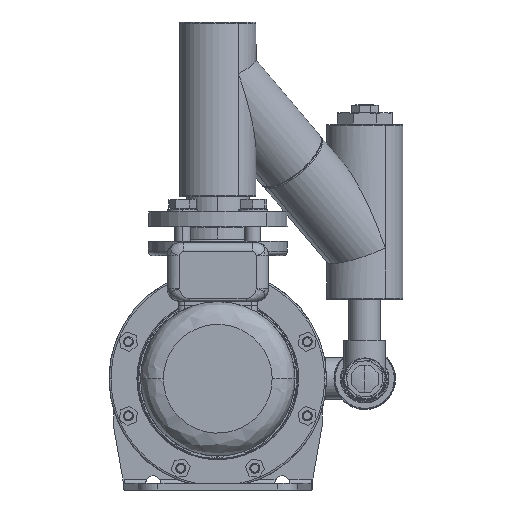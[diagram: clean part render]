
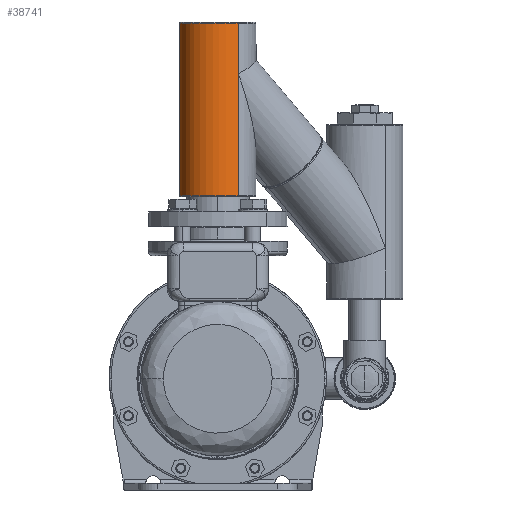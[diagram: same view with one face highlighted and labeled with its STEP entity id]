
A CAD part, front view. The second image highlights one B-rep face of the part: STEP entity #38741.
In plain terms, the highlighted cylindrical face has radius 38.5 mm (diameter 77 mm), a partial arc.
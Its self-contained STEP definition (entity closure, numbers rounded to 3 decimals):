
#37726 = VERTEX_POINT ( 'NONE', #76625 ) ;
#37727 = EDGE_CURVE ( 'NONE', #37726, #37862, #76666, .T. ) ;
#37769 = EDGE_CURVE ( 'NONE', #37774, #37776, #76746, .T. ) ;
#37774 = VERTEX_POINT ( 'NONE', #76741 ) ;
#37776 = VERTEX_POINT ( 'NONE', #76718 ) ;
#37862 = VERTEX_POINT ( 'NONE', #76971 ) ;
#37968 = VERTEX_POINT ( 'NONE', #77224 ) ;
#37975 = VERTEX_POINT ( 'NONE', #77214 ) ;
#38065 = EDGE_CURVE ( 'NONE', #37862, #37975, #77442, .T. ) ;
#38080 = EDGE_CURVE ( 'NONE', #37726, #37968, #77461, .T. ) ;
#38187 = EDGE_CURVE ( 'NONE', #37968, #37776, #77584, .T. ) ;
#38201 = EDGE_CURVE ( 'NONE', #37975, #37774, #77614, .T. ) ;
#38610 = ORIENTED_EDGE ( 'NONE', *, *, #38065, .T. ) ;
#38625 = EDGE_LOOP ( 'NONE', ( #38629, #38730, #38610, #38695, #38627, #38701 ) ) ;
#38627 = ORIENTED_EDGE ( 'NONE', *, *, #37769, .T. ) ;
#38629 = ORIENTED_EDGE ( 'NONE', *, *, #38080, .F. ) ;
#38695 = ORIENTED_EDGE ( 'NONE', *, *, #38201, .T. ) ;
#38701 = ORIENTED_EDGE ( 'NONE', *, *, #38187, .F. ) ;
#38730 = ORIENTED_EDGE ( 'NONE', *, *, #37727, .T. ) ;
#38741 = ADVANCED_FACE ( 'NONE', ( #78633 ), #78635, .T. ) ;
#76623 = CARTESIAN_POINT ( 'NONE',  ( -153.063, -208.473, 209.412 ) ) ;
#76625 = CARTESIAN_POINT ( 'NONE',  ( -173.715, -175.98, 209.412 ) ) ;
#76626 = DIRECTION ( 'NONE',  ( 0., 0., 1. ) ) ;
#76664 = DIRECTION ( 'NONE',  ( 0.536, -0.844, 0. ) ) ;
#76665 = AXIS2_PLACEMENT_3D ( 'NONE', #76623, #76626, #76664 ) ;
#76666 = CIRCLE ( 'NONE', #76665, 38.5 ) ;
#76714 = AXIS2_PLACEMENT_3D ( 'NONE', #76740, #76738, #76737 ) ;
#76718 = CARTESIAN_POINT ( 'NONE',  ( -173.715, -175.98, 383.312 ) ) ;
#76737 = DIRECTION ( 'NONE',  ( 0.536, -0.844, 0. ) ) ;
#76738 = DIRECTION ( 'NONE',  ( 0., 0., -1. ) ) ;
#76740 = CARTESIAN_POINT ( 'NONE',  ( -153.063, -208.473, 383.312 ) ) ;
#76741 = CARTESIAN_POINT ( 'NONE',  ( -132.412, -240.966, 383.312 ) ) ;
#76746 = CIRCLE ( 'NONE', #76714, 38.5 ) ;
#76971 = CARTESIAN_POINT ( 'NONE',  ( -132.412, -240.966, 209.412 ) ) ;
#77214 = CARTESIAN_POINT ( 'NONE',  ( -132.412, -240.966, 332.362 ) ) ;
#77224 = CARTESIAN_POINT ( 'NONE',  ( -173.715, -175.98, 332.362 ) ) ;
#77442 = LINE ( 'NONE', #77472, #77462 ) ;
#77461 = LINE ( 'NONE', #77499, #77497 ) ;
#77462 = VECTOR ( 'NONE', #77471, 1000. ) ;
#77471 = DIRECTION ( 'NONE',  ( 0., 0., 1. ) ) ;
#77472 = CARTESIAN_POINT ( 'NONE',  ( -132.412, -240.966, 296.362 ) ) ;
#77496 = DIRECTION ( 'NONE',  ( 0., 0., 1. ) ) ;
#77497 = VECTOR ( 'NONE', #77496, 1000. ) ;
#77499 = CARTESIAN_POINT ( 'NONE',  ( -173.715, -175.98, 296.362 ) ) ;
#77578 = VECTOR ( 'NONE', #77579, 1000. ) ;
#77579 = DIRECTION ( 'NONE',  ( 0., 0., 1. ) ) ;
#77580 = CARTESIAN_POINT ( 'NONE',  ( -173.715, -175.98, 296.362 ) ) ;
#77584 = LINE ( 'NONE', #77580, #77578 ) ;
#77611 = DIRECTION ( 'NONE',  ( 0., 0., 1. ) ) ;
#77612 = VECTOR ( 'NONE', #77611, 1000. ) ;
#77613 = CARTESIAN_POINT ( 'NONE',  ( -132.412, -240.966, 296.362 ) ) ;
#77614 = LINE ( 'NONE', #77613, #77612 ) ;
#78582 = AXIS2_PLACEMENT_3D ( 'NONE', #78636, #78638, #78661 ) ;
#78633 = FACE_OUTER_BOUND ( 'NONE', #38625, .T. ) ;
#78635 = CYLINDRICAL_SURFACE ( 'NONE', #78582, 38.5 ) ;
#78636 = CARTESIAN_POINT ( 'NONE',  ( -153.063, -208.473, 296.362 ) ) ;
#78638 = DIRECTION ( 'NONE',  ( 0., 0., 1. ) ) ;
#78661 = DIRECTION ( 'NONE',  ( 0.536, -0.844, 0. ) ) ;
